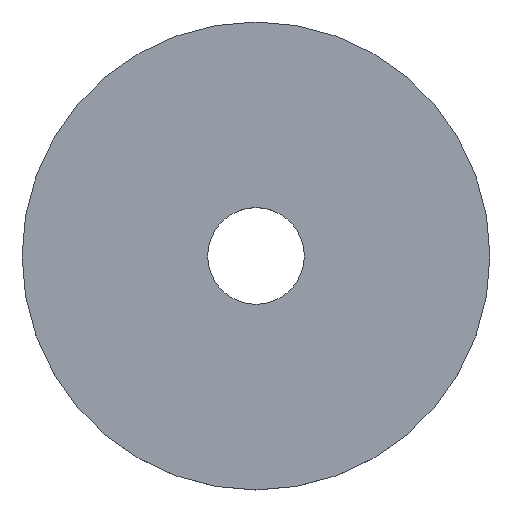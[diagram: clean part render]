
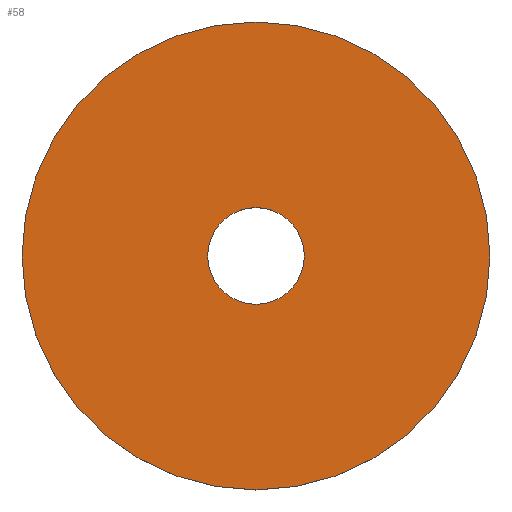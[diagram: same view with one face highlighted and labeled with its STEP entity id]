
A CAD part, top view. The second image highlights one B-rep face of the part: STEP entity #58.
In plain terms, the highlighted planar face has unit normal (0, 0, 1).
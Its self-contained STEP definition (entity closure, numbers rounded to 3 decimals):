
#2 = VERTEX_POINT ( 'NONE', #14 ) ;
#3 = CARTESIAN_POINT ( 'NONE',  ( 3.1, 0., 1.8 ) ) ;
#7 = DIRECTION ( 'NONE',  ( 0., 0., 1. ) ) ;
#9 = DIRECTION ( 'NONE',  ( 0., 0., 1. ) ) ;
#14 = CARTESIAN_POINT ( 'NONE',  ( 15., 0., 1.8 ) ) ;
#17 = EDGE_CURVE ( 'NONE', #2, #2, #74, .T. ) ;
#27 = FACE_OUTER_BOUND ( 'NONE', #28, .T. ) ;
#28 = EDGE_LOOP ( 'NONE', ( #95 ) ) ;
#29 = AXIS2_PLACEMENT_3D ( 'NONE', #61, #9, #36 ) ;
#36 = DIRECTION ( 'NONE',  ( 1., 0., 0. ) ) ;
#44 = PLANE ( 'NONE',  #29 ) ;
#52 = CIRCLE ( 'NONE', #118, 3.1 ) ;
#58 = ADVANCED_FACE ( 'NONE', ( #27, #117 ), #44, .T. ) ;
#61 = CARTESIAN_POINT ( 'NONE',  ( 0., 0., 1.8 ) ) ;
#62 = VERTEX_POINT ( 'NONE', #3 ) ;
#69 = CARTESIAN_POINT ( 'NONE',  ( 0., 0., 1.8 ) ) ;
#74 = CIRCLE ( 'NONE', #75, 15. ) ;
#75 = AXIS2_PLACEMENT_3D ( 'NONE', #69, #113, #101 ) ;
#78 = CARTESIAN_POINT ( 'NONE',  ( 0., 0., 1.8 ) ) ;
#79 = EDGE_CURVE ( 'NONE', #62, #62, #52, .T. ) ;
#84 = EDGE_LOOP ( 'NONE', ( #92 ) ) ;
#92 = ORIENTED_EDGE ( 'NONE', *, *, #79, .F. ) ;
#95 = ORIENTED_EDGE ( 'NONE', *, *, #17, .T. ) ;
#101 = DIRECTION ( 'NONE',  ( 1., 0., 0. ) ) ;
#108 = DIRECTION ( 'NONE',  ( 1., 0., 0. ) ) ;
#113 = DIRECTION ( 'NONE',  ( 0., 0., 1. ) ) ;
#117 = FACE_BOUND ( 'NONE', #84, .T. ) ;
#118 = AXIS2_PLACEMENT_3D ( 'NONE', #78, #7, #108 ) ;
